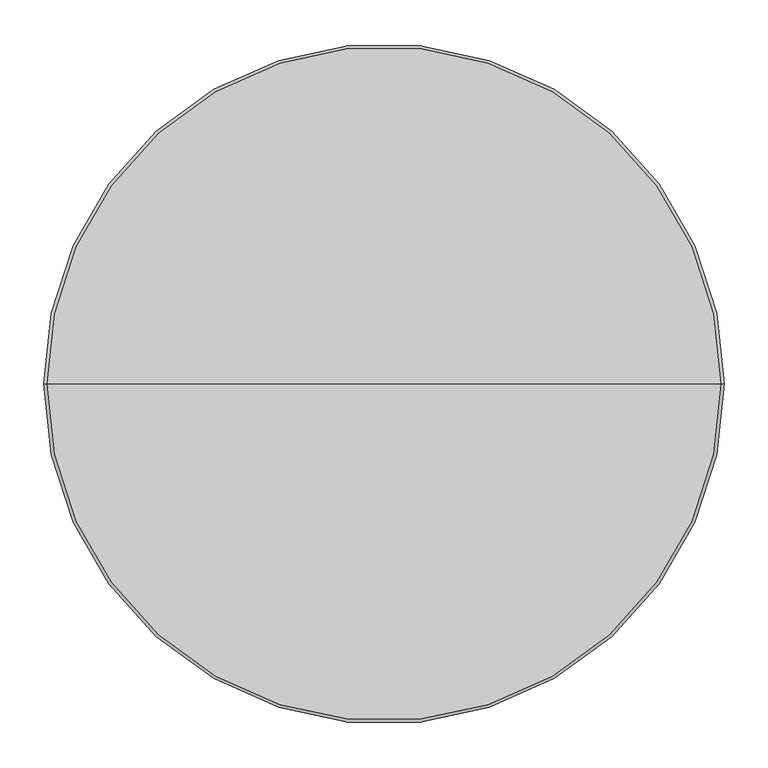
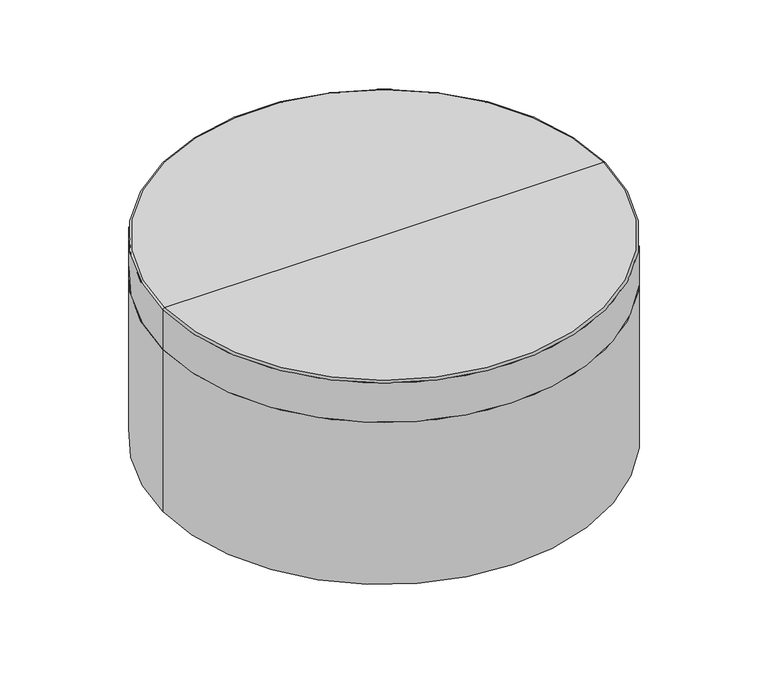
"""IFC4 building model written with IfcOpenShell, lengths in millimetres: furniture geometry, StanceHC-Drum_Table : 3-DRT30D16-U."""

from ifc_helpers import new_model, si_unit, point, frame, frame_2d, origin, origin_with_axes, place, context, project, spatial, circle_curve, ellipse_curve, trimmed, segment, composite_curve, outline, extrude, source, transform, mapped, element, save
from ifc_brep_helpers import plane_surface, cylinder_surface, revolved_surface, advanced_brep


def furniture_0c88c4e6(model_context):
    return source(origin(), model_context, "Body", "SolidModel", [
        extrude(outline(composite_curve([segment(trimmed(circle_curve(frame_2d((0.0, 326.3164845)), 12.7), [point((-12.7, 326.3164845))], [point((12.7, 326.3164845))], False, "CARTESIAN"), True, "CONTINUOUS"), segment(trimmed(circle_curve(frame_2d((0.0, 326.3164845)), 12.7), [point((12.7, 326.3164845))], [point((-12.7, 326.3164845))], False, "CARTESIAN"), True, "CONTINUOUS")], self_intersect=False)), origin_with_axes(), (0.0, 0.0, 1.0), 4.7625),
        extrude(outline(composite_curve([segment(trimmed(circle_curve(frame_2d((0.0, -326.3164845)), 12.7), [point((-12.7, -326.3164845))], [point((12.7, -326.3164845))], False, "CARTESIAN"), True, "CONTINUOUS"), segment(trimmed(circle_curve(frame_2d((0.0, -326.3164845)), 12.7), [point((12.7, -326.3164845))], [point((-12.7, -326.3164845))], False, "CARTESIAN"), True, "CONTINUOUS")], self_intersect=False)), origin_with_axes(), (0.0, 0.0, 1.0), 4.7625),
        extrude(outline(composite_curve([segment(trimmed(circle_curve(frame_2d((330.1996404, 0.0)), 12.7), [point((317.4996404, 0.0))], [point((342.8996404, 0.0))], False, "CARTESIAN"), True, "CONTINUOUS"), segment(trimmed(circle_curve(frame_2d((330.1996404, 0.0)), 12.7), [point((342.8996404, 0.0))], [point((317.4996404, 0.0))], False, "CARTESIAN"), True, "CONTINUOUS")], self_intersect=False)), origin_with_axes(), (0.0, 0.0, 1.0), 4.7625),
        extrude(outline(composite_curve([segment(trimmed(circle_curve(frame_2d((-330.1996404, 0.0)), 12.7), [point((-342.8996404, 0.0))], [point((-317.4996404, 0.0))], False, "CARTESIAN"), True, "CONTINUOUS"), segment(trimmed(circle_curve(frame_2d((-330.1996404, 0.0)), 12.7), [point((-317.4996404, 0.0))], [point((-342.8996404, 0.0))], False, "CARTESIAN"), True, "CONTINUOUS")], self_intersect=False)), origin_with_axes(), (0.0, 0.0, 1.0), 4.7625),
        advanced_brep(
        [(0.0, 0.0, 304.8), (387.35, 0.0, 304.8), (-387.35, 0.0, 304.8), (-387.35, 0.0, 4.7625), (387.35, 0.0, 4.7625), (0.0, 0.0, 4.7625)],
        [
            (0, 1),
            (1, 2, circle_curve(frame((0.0, 0.0, 304.8), z_axis=(0.0, 0.0, 1.0), x_axis=(1.0, 0.0, 0.0)), 387.35)),
            (2, 0),
            (2, 1, circle_curve(frame((0.0, 0.0, 304.8), z_axis=(0.0, 0.0, 1.0), x_axis=(1.0, 0.0, 0.0)), 387.35)),
            (3, 4, circle_curve(frame((0.0, 0.0, 4.7625), z_axis=(0.0, 0.0, -1.0), x_axis=(1.0, 0.0, 0.0)), 387.35)),
            (4, 5),
            (5, 3),
            (4, 3, circle_curve(frame((0.0, 0.0, 4.7625), z_axis=(0.0, 0.0, -1.0), x_axis=(1.0, 0.0, 0.0)), 387.35)),
            (1, 4),
            (3, 2),
        ],
        [
            plane_surface(frame((0.0, 0.0, 304.8), z_axis=(0.0, 0.0, 1.0), x_axis=(1.0, 0.0, 0.0))),
            plane_surface(frame((0.0, 0.0, 4.7625), z_axis=(0.0, 0.0, -1.0), x_axis=(1.0, 0.0, 0.0))),
            cylinder_surface(frame((0.0, 0.0, 457.2), z_axis=(0.0, 0.0, 1.0), x_axis=(1.0, 0.0, 0.0)), 387.35),
        ],
        [
            (0, [[1, 2, 3]]),
            (0, [[-3, 4, -1]]),
            (1, [[5, 6, 7]]),
            (1, [[8, -7, -6]]),
            (2, [[-2, 9, -5, 10]]),
            (2, [[-4, -10, -8, -9]]),
        ],
    ),
        advanced_brep(
        [(-387.35, 0.0, 304.8), (387.35, 0.0, 304.8), (0.0, 0.0, 304.8), (-387.35, 0.0, 377.8764933), (387.35, 0.0, 377.8764933), (-384.2264933, 0.0, 381.0), (384.2264933, 0.0, 381.0), (0.0, 0.0, 381.0)],
        [
            (0, 1, circle_curve(frame((0.0, 0.0, 304.8), z_axis=(0.0, 0.0, -1.0), x_axis=(1.0, 0.0, 0.0)), 387.35)),
            (1, 2),
            (2, 0),
            (1, 0, circle_curve(frame((0.0, 0.0, 304.8), z_axis=(0.0, 0.0, -1.0), x_axis=(1.0, 0.0, 0.0)), 387.35)),
            (3, 4, circle_curve(frame((0.0, 0.0, 377.8764933), z_axis=(0.0, 0.0, -1.0), x_axis=(1.0, 0.0, 0.0)), 387.35)),
            (4, 1),
            (0, 3),
            (4, 3, circle_curve(frame((0.0, 0.0, 377.8764933), z_axis=(0.0, 0.0, -1.0), x_axis=(1.0, 0.0, 0.0)), 387.35)),
            (5, 6, circle_curve(frame((0.0, 0.0, 381.0), z_axis=(0.0, 0.0, -1.0), x_axis=(1.0, 0.0, 0.0)), 384.2264933)),
            (6, 4, circle_curve(frame((384.2264933, 0.0, 377.8764933), z_axis=(0.0, 1.0, 0.0), x_axis=(1.0, 0.0, 0.0)), 3.1235067)),
            (3, 5, circle_curve(frame((-384.2264933, 0.0, 377.8764933), z_axis=(0.0, 1.0, 0.0), x_axis=(-1.0, 0.0, 0.0)), 3.1235067)),
            (6, 5, circle_curve(frame((0.0, 0.0, 381.0), z_axis=(0.0, 0.0, -1.0), x_axis=(1.0, 0.0, 0.0)), 384.2264933)),
            (7, 6),
            (5, 7),
        ],
        [
            plane_surface(frame((0.0, 0.0, 304.8), z_axis=(0.0, 0.0, -1.0), x_axis=(1.0, 0.0, 0.0))),
            cylinder_surface(frame((0.0, 0.0, 476.25), z_axis=(0.0, 0.0, 1.0), x_axis=(1.0, 0.0, 0.0)), 387.35),
            revolved_surface(trimmed(ellipse_curve(frame((384.2264933, 0.0, 377.8764933), z_axis=(0.0, -1.0, 0.0), x_axis=(1.0, 0.0, 0.0)), 3.1235067, 3.1235067), [point((387.35, 0.0, 377.8764933))], [point((384.2264933, 0.0, 381.0))], True, "CARTESIAN"), (0.0, 0.0, 476.25), (0.0, 0.0, 1.0)),
            plane_surface(frame((0.0, 0.0, 381.0), z_axis=(0.0, 0.0, 1.0), x_axis=(1.0, 0.0, 0.0))),
        ],
        [
            (0, [[1, 2, 3]]),
            (0, [[4, -3, -2]]),
            (1, [[5, 6, -1, 7]]),
            (1, [[8, -7, -4, -6]]),
            (2, [[9, 10, -5, 11]]),
            (2, [[12, -11, -8, -10]]),
            (3, [[13, -9, 14]]),
            (3, [[-14, -12, -13]]),
        ],
    ),
    ])


if __name__ == "__main__":
    model = new_model("IFC4")
    model_context = context("Model", 3, world=origin())
    ifc_project = project(units=[si_unit("LENGTHUNIT", "METRE", prefix="MILLI")], contexts=[model_context])
    site = spatial("IfcSite", under=ifc_project)
    building = spatial("IfcBuilding", under=site)
    placement = place(None, origin())
    furniture_shape = furniture_0c88c4e6(model_context)
    element("IfcFurniture", 1, ObjectType="StanceHC-Drum_Table : 3-DRT30D16-U", at=placement, inside=building, context=model_context, shape_type="MappedRepresentation", body=[
        mapped(furniture_shape, transform((0.0, 0.0, 0.0), x_axis=(1.0, 0.0, 0.0), y_axis=(0.0, 1.0, 0.0), z_axis=(0.0, 0.0, 1.0))),
    ])
    save(model, "model.ifc")
